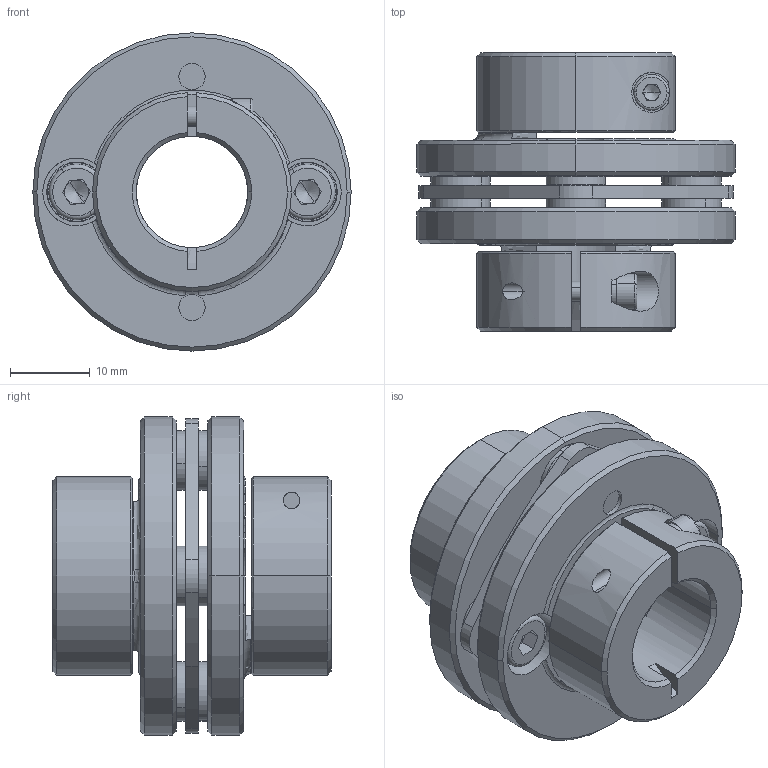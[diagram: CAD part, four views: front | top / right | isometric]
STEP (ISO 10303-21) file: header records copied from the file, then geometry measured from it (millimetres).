
FILE_DESCRIPTION (( 'STEP AP203' ), '1' );
FILE_NAME ('LE1-B-D40L35-14-14.STEP', '2021-11-01T02:49:46', ( '' ), ( '' ), 'SwSTEP 2.0', 'SolidWorks 2018', '' );
FILE_SCHEMA (( 'CONFIG_CONTROL_DESIGN' ));
Length unit declared in the file: millimetre
Products named in the file (1): LE1-B-D40L35-14-14
Bounding box: 40 x 35 x 40 mm (x, y, z)
Volume: 17547.2 mm3; surface area: 12272.9 mm2
Topology: 1 solids, 13 shells, 421 faces, 1015 edges, 626 vertices
Faces by surface type: cylinder 147, plane 140, cone 114, torus 18, bspline 2
Entity records: 12668 total; most frequent: CARTESIAN_POINT 2413, DIRECTION 2325, ORIENTED_EDGE 2006, EDGE_CURVE 1003, AXIS2_PLACEMENT_3D 948, VERTEX_POINT 626, CIRCLE 528, EDGE_LOOP 489
